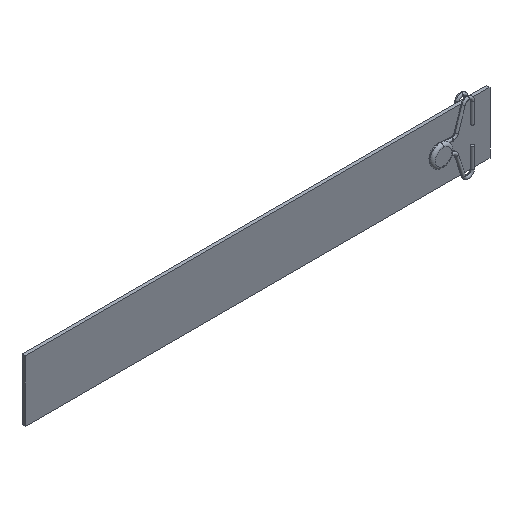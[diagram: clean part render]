
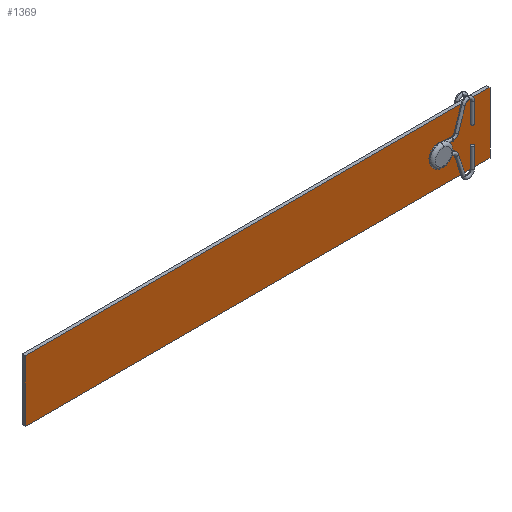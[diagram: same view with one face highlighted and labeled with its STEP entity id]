
A CAD part, isometric view. The second image highlights one B-rep face of the part: STEP entity #1369.
In plain terms, the highlighted planar face has unit normal (0, -1, 0).
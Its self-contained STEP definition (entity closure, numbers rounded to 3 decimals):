
#48 = ORIENTED_EDGE ( 'NONE', *, *, #1174, .T. ) ;
#54 = EDGE_CURVE ( 'NONE', #121, #80, #783, .T. ) ;
#80 = VERTEX_POINT ( 'NONE', #1830 ) ;
#121 = VERTEX_POINT ( 'NONE', #2193 ) ;
#162 = LINE ( 'NONE', #180, #1463 ) ;
#180 = CARTESIAN_POINT ( 'NONE',  ( -150., -0.5, -9.9 ) ) ;
#184 = EDGE_CURVE ( 'NONE', #80, #1671, #162, .T. ) ;
#329 = ORIENTED_EDGE ( 'NONE', *, *, #594, .T. ) ;
#338 = DIRECTION ( 'NONE',  ( 1., 0., 0. ) ) ;
#345 = DIRECTION ( 'NONE',  ( 0., 0., 1. ) ) ;
#413 = ORIENTED_EDGE ( 'NONE', *, *, #54, .F. ) ;
#422 = CIRCLE ( 'NONE', #2102, 1.95 ) ;
#497 = LINE ( 'NONE', #1715, #1336 ) ;
#594 = EDGE_CURVE ( 'NONE', #1503, #1279, #780, .T. ) ;
#679 = VECTOR ( 'NONE', #338, 1000. ) ;
#780 = CIRCLE ( 'NONE', #1998, 1.95 ) ;
#783 = LINE ( 'NONE', #1668, #1187 ) ;
#895 = FACE_OUTER_BOUND ( 'NONE', #1519, .T. ) ;
#1073 = CARTESIAN_POINT ( 'NONE',  ( -17., -0.5, 1.95 ) ) ;
#1130 = LINE ( 'NONE', #1847, #679 ) ;
#1174 = EDGE_CURVE ( 'NONE', #1279, #1503, #422, .T. ) ;
#1187 = VECTOR ( 'NONE', #2023, 1000. ) ;
#1242 = DIRECTION ( 'NONE',  ( 0., 0., 1. ) ) ;
#1252 = DIRECTION ( 'NONE',  ( 0., 1., 0. ) ) ;
#1279 = VERTEX_POINT ( 'NONE', #1073 ) ;
#1330 = CARTESIAN_POINT ( 'NONE',  ( 0., -0.5, 9.9 ) ) ;
#1336 = VECTOR ( 'NONE', #1733, 1000. ) ;
#1352 = EDGE_CURVE ( 'NONE', #1427, #121, #497, .T. ) ;
#1369 = ADVANCED_FACE ( 'NONE', ( #1389, #895 ), #1414, .F. ) ;
#1389 = FACE_BOUND ( 'NONE', #1796, .T. ) ;
#1414 = PLANE ( 'NONE',  #1936 ) ;
#1427 = VERTEX_POINT ( 'NONE', #1330 ) ;
#1429 = EDGE_CURVE ( 'NONE', #1671, #1427, #1130, .T. ) ;
#1463 = VECTOR ( 'NONE', #2172, 1000. ) ;
#1503 = VERTEX_POINT ( 'NONE', #2020 ) ;
#1519 = EDGE_LOOP ( 'NONE', ( #413, #1652, #1582, #1735 ) ) ;
#1534 = CARTESIAN_POINT ( 'NONE',  ( 0., -0.5, 0. ) ) ;
#1582 = ORIENTED_EDGE ( 'NONE', *, *, #1429, .F. ) ;
#1652 = ORIENTED_EDGE ( 'NONE', *, *, #1352, .F. ) ;
#1668 = CARTESIAN_POINT ( 'NONE',  ( 0., -0.5, -9.9 ) ) ;
#1671 = VERTEX_POINT ( 'NONE', #2201 ) ;
#1715 = CARTESIAN_POINT ( 'NONE',  ( 0., -0.5, 9.9 ) ) ;
#1733 = DIRECTION ( 'NONE',  ( 0., 0., -1. ) ) ;
#1735 = ORIENTED_EDGE ( 'NONE', *, *, #184, .F. ) ;
#1796 = EDGE_LOOP ( 'NONE', ( #48, #329 ) ) ;
#1830 = CARTESIAN_POINT ( 'NONE',  ( -150., -0.5, -9.9 ) ) ;
#1847 = CARTESIAN_POINT ( 'NONE',  ( 0., -0.5, 9.9 ) ) ;
#1936 = AXIS2_PLACEMENT_3D ( 'NONE', #1534, #1252, #1242 ) ;
#1985 = DIRECTION ( 'NONE',  ( 0., 0., 1. ) ) ;
#1998 = AXIS2_PLACEMENT_3D ( 'NONE', #2142, #2135, #345 ) ;
#2001 = DIRECTION ( 'NONE',  ( 0., 1., 0. ) ) ;
#2020 = CARTESIAN_POINT ( 'NONE',  ( -17., -0.5, -1.95 ) ) ;
#2023 = DIRECTION ( 'NONE',  ( -1., 0., 0. ) ) ;
#2097 = CARTESIAN_POINT ( 'NONE',  ( -17., -0.5, 0. ) ) ;
#2102 = AXIS2_PLACEMENT_3D ( 'NONE', #2097, #2001, #1985 ) ;
#2135 = DIRECTION ( 'NONE',  ( 0., 1., 0. ) ) ;
#2142 = CARTESIAN_POINT ( 'NONE',  ( -17., -0.5, 0. ) ) ;
#2172 = DIRECTION ( 'NONE',  ( 0., 0., 1. ) ) ;
#2193 = CARTESIAN_POINT ( 'NONE',  ( 0., -0.5, -9.9 ) ) ;
#2201 = CARTESIAN_POINT ( 'NONE',  ( -150., -0.5, 9.9 ) ) ;
